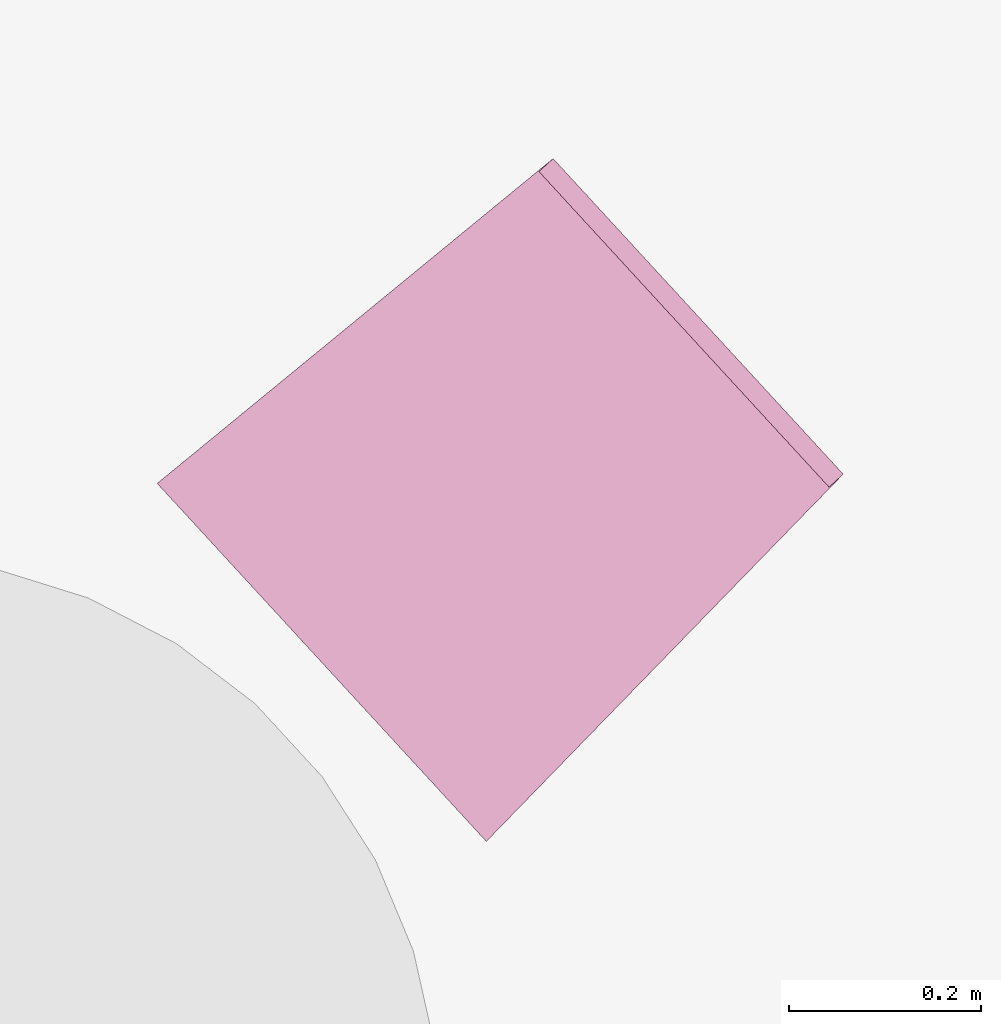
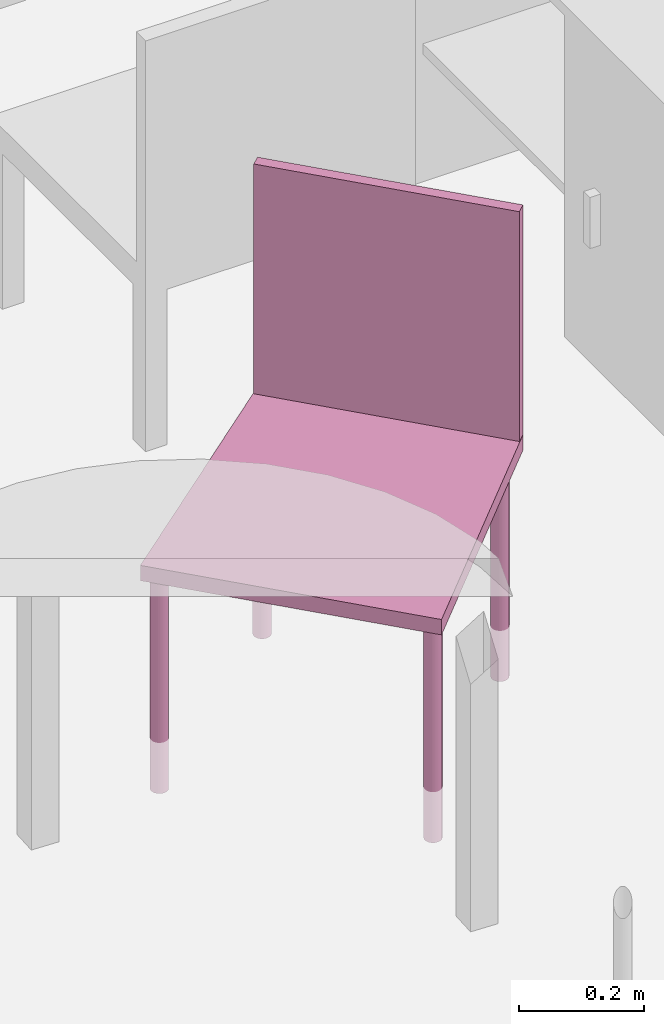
"""IFC4 building model written with IfcOpenShell, lengths in metres."""

from ifc_helpers import new_model, entity, si_unit, converted_unit, derived_unit, frame, origin, place, context, subcontext, project, spatial, faceted_brep, element, save


model = new_model("IFC4")

# Units and contexts
model_context = context("Model", 3, precision=1e-05, world=origin())
body_context = subcontext(model_context, "Body", "Model", "MODEL_VIEW")
ifc_project = project(units=[si_unit("LENGTHUNIT", "METRE"), si_unit("AREAUNIT", "SQUARE_METRE"), si_unit("VOLUMEUNIT", "CUBIC_METRE"), si_unit("MASSUNIT", "GRAM", prefix="KILO"), converted_unit("PLANEANGLEUNIT", "DEGREE", entity("IfcPlaneAngleMeasure", 0.0174532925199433), si_unit("PLANEANGLEUNIT", "RADIAN"), dimensions=[0, 0, 0, 0, 0, 0, 0]), derived_unit("THERMALTRANSMITTANCEUNIT", [(si_unit("POWERUNIT", "WATT"), 1), (si_unit("THERMODYNAMICTEMPERATUREUNIT", "KELVIN"), -1), (si_unit("LENGTHUNIT", "METRE"), -2)]), derived_unit("VOLUMETRICFLOWRATEUNIT", [(si_unit("LENGTHUNIT", "METRE"), 3), (converted_unit("TIMEUNIT", "hour", entity("IfcTimeMeasure", 3600.0), si_unit("TIMEUNIT", "SECOND"), dimensions=[0, 0, 1, 0, 0, 0, 0]), -1), (si_unit("LENGTHUNIT", "METRE"), -1)])], contexts=[model_context])

# Building, storeys
building_placement = place(None, origin())
building = spatial("IfcBuilding", under=ifc_project, at=building_placement, Name="HABITATGE PLURIFAMILIAR", CompositionType="ELEMENT")
storey_1_placement = place(building_placement, frame((0.0, 0.0, 12.27)))
storey_1 = spatial("IfcBuildingStorey", under=building, at=storey_1_placement, Name="PLANTA TERCERA", CompositionType="ELEMENT", Elevation=12.27)
storey_2_placement = place(storey_1_placement, frame((0.0, 0.0, 9.26)))
storey_2 = spatial("IfcBuildingStorey", under=storey_1, at=storey_2_placement, Name="NOU", CompositionType="PARTIAL")

# Furniture
furniture_placement = place(storey_2_placement, frame((402.579683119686, 23.9465361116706, -9.36074913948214)))
element("IfcFurniture", 1, at=furniture_placement, inside=storey_2, Name="Cadira confident_P3", context=body_context, shape_type="Brep", body=[
    faceted_brep([(0.0247551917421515, 0.383021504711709, 0.0), (0.0230003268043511, 0.381097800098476, 0.0), (0.021606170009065, 0.378898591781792, 0.0), (0.0206150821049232, 0.376490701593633, 0.0), (0.0200571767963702, 0.373947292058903, 0.0), (0.0199494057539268, 0.371345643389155, 0.0), (0.0202950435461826, 0.368764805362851, 0.0), (0.0210835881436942, 0.366283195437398, 0.0), (0.0222910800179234, 0.363976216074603, 0.0), (0.0238808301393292, 0.361913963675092, 0.0), (0.0258045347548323, 0.360159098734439, 0.0), (0.0280037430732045, 0.358764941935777, 0.0), (0.030411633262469, 0.357773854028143, 0.0), (0.0329550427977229, 0.357215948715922, 0.0), (0.0355566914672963, 0.357108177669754, 0.0), (0.0381375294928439, 0.357453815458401, 0.0), (0.0406191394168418, 0.358242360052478, 0.0), (0.0429261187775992, 0.359449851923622, 0.0), (0.0449883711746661, 0.361039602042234, 0.0), (0.0467432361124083, 0.362963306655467, 0.0), (0.0481373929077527, 0.365162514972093, 0.0), (0.0491284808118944, 0.367570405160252, 0.0), (0.0496863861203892, 0.37011381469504, 0.0), (0.0497941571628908, 0.372715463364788, 0.0), (0.049448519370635, 0.375296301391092, 0.0), (0.0486599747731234, 0.377777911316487, 0.0), (0.047452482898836, 0.38008489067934, 0.0), (0.0458627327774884, 0.382147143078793, 0.0), (0.0439390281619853, 0.383902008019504, 0.0), (0.0417398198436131, 0.385296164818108, 0.0), (0.0393319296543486, 0.386287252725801, 0.0), (0.0367885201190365, 0.386845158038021, 0.0), (0.0341868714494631, 0.386952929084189, 0.0), (0.0316060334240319, 0.386607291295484, 0.0), (0.0291244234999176, 0.385818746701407, 0.0), (0.0268174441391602, 0.384611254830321, 0.0), (0.0247551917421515, 0.383021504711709, 0.448281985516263), (0.0268174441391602, 0.384611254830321, 0.448281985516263), (0.0291244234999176, 0.385818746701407, 0.448281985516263), (0.0316060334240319, 0.386607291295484, 0.448281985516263), (0.0341868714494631, 0.386952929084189, 0.448281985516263), (0.0367885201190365, 0.386845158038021, 0.448281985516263), (0.0393319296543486, 0.386287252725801, 0.448281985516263), (0.0417398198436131, 0.385296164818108, 0.448281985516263), (0.0439390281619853, 0.383902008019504, 0.448281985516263), (0.0458627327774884, 0.382147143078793, 0.448281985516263), (0.047452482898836, 0.38008489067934, 0.448281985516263), (0.0486599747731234, 0.377777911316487, 0.448281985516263), (0.049448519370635, 0.375296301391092, 0.448281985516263), (0.0497941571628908, 0.372715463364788, 0.448281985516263), (0.0496863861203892, 0.37011381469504, 0.448281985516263), (0.0491284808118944, 0.367570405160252, 0.448281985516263), (0.0481373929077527, 0.365162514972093, 0.448281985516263), (0.0467432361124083, 0.362963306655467, 0.448281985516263), (0.0449883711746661, 0.361039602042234, 0.448281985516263), (0.0429261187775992, 0.359449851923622, 0.448281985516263), (0.0406191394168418, 0.358242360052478, 0.448281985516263), (0.0381375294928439, 0.357453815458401, 0.448281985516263), (0.0355566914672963, 0.357108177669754, 0.448281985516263), (0.0329550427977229, 0.357215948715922, 0.448281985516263), (0.030411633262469, 0.357773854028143, 0.448281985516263), (0.0280037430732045, 0.358764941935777, 0.448281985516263), (0.0258045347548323, 0.360159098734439, 0.448281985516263), (0.0238808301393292, 0.361913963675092, 0.448281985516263), (0.0222910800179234, 0.363976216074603, 0.448281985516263), (0.0210835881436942, 0.366283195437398, 0.448281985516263), (0.0202950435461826, 0.368764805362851, 0.448281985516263), (0.0199494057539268, 0.371345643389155, 0.448281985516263), (0.0200571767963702, 0.373947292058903, 0.448281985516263), (0.0206150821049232, 0.376490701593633, 0.448281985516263), (0.021606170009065, 0.378898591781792, 0.448281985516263), (0.0230003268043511, 0.381097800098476, 0.448281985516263)], [[[0, 1, 2, 3, 4, 5, 6, 7, 8, 9, 10, 11, 12, 13, 14, 15, 16, 17, 18, 19, 20, 21, 22, 23, 24, 25, 26, 27, 28, 29, 30, 31, 32, 33, 34, 35]], [[36, 37, 38, 39, 40, 41, 42, 43, 44, 45, 46, 47, 48, 49, 50, 51, 52, 53, 54, 55, 56, 57, 58, 59, 60, 61, 62, 63, 64, 65, 66, 67, 68, 69, 70, 71]], [[35, 37, 36, 0]], [[34, 38, 37, 35]], [[33, 39, 38, 34]], [[32, 40, 39, 33]], [[31, 41, 40, 32]], [[30, 42, 41, 31]], [[29, 43, 42, 30]], [[28, 44, 43, 29]], [[27, 45, 44, 28]], [[26, 46, 45, 27]], [[25, 47, 46, 26]], [[24, 48, 47, 25]], [[23, 49, 48, 24]], [[22, 50, 49, 23]], [[21, 51, 50, 22]], [[20, 52, 51, 21]], [[19, 53, 52, 20]], [[18, 54, 53, 19]], [[17, 55, 54, 18]], [[16, 56, 55, 17]], [[15, 57, 56, 16]], [[14, 58, 57, 15]], [[13, 59, 58, 14]], [[12, 60, 59, 13]], [[11, 61, 60, 12]], [[10, 62, 61, 11]], [[9, 63, 62, 10]], [[8, 64, 63, 9]], [[7, 65, 64, 8]], [[6, 66, 65, 7]], [[5, 67, 66, 6]], [[4, 68, 67, 5]], [[3, 69, 68, 4]], [[2, 70, 69, 3]], [[1, 71, 70, 2]], [[0, 36, 71, 1]]], orient=[[False], [False], [False], [False], [False], [False], [False], [False], [False], [False], [False], [False], [False], [False], [False], [False], [False], [False], [False], [False], [False], [False], [False], [False], [False], [False], [False], [False], [False], [False], [False], [False], [False], [False], [False], [False], [False], [False]]),
    faceted_brep([(0.383868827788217, 0.675633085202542, 0.0), (0.382113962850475, 0.673709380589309, 0.0), (0.380719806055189, 0.671510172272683, 0.0), (0.379728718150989, 0.669102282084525, 0.0), (0.379170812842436, 0.666558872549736, 0.0), (0.379063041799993, 0.663957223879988, 0.0), (0.379408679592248, 0.661376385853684, 0.0), (0.38019722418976, 0.658894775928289, 0.0), (0.381404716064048, 0.656587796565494, 0.0), (0.382994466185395, 0.654525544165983, 0.0), (0.384918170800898, 0.65277067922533, 0.0), (0.38711737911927, 0.651376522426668, 0.0), (0.389525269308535, 0.650385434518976, 0.0), (0.392068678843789, 0.649827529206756, 0.0), (0.394670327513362, 0.649719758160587, 0.0), (0.397251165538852, 0.650065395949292, 0.0), (0.399732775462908, 0.650853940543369, 0.0), (0.402039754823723, 0.652061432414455, 0.0), (0.404102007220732, 0.653651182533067, 0.0), (0.405856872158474, 0.655574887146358, 0.0), (0.407251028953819, 0.657774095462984, 0.0), (0.408242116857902, 0.660181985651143, 0.0), (0.408800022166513, 0.662725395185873, 0.0), (0.408907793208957, 0.665327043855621, 0.0), (0.408562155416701, 0.667907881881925, 0.0), (0.407773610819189, 0.670389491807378, 0.0), (0.406566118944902, 0.672696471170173, 0.0), (0.404976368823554, 0.674758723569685, 0.0), (0.403052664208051, 0.676513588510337, 0.0), (0.400853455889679, 0.677907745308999, 0.0), (0.398445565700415, 0.678898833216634, 0.0), (0.395902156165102, 0.679456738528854, 0.0), (0.393300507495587, 0.679564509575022, 0.0), (0.390719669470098, 0.679218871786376, 0.0), (0.388238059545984, 0.678430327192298, 0.0), (0.385931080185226, 0.677222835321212, 0.0), (0.383868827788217, 0.675633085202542, 0.448281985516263), (0.385931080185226, 0.677222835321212, 0.448281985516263), (0.388238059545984, 0.678430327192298, 0.448281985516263), (0.390719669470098, 0.679218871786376, 0.448281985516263), (0.393300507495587, 0.679564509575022, 0.448281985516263), (0.395902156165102, 0.679456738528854, 0.448281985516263), (0.398445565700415, 0.678898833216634, 0.448281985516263), (0.400853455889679, 0.677907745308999, 0.448281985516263), (0.403052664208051, 0.676513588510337, 0.448281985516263), (0.404976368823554, 0.674758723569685, 0.448281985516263), (0.406566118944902, 0.672696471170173, 0.448281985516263), (0.407773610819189, 0.670389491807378, 0.448281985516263), (0.408562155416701, 0.667907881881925, 0.448281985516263), (0.408907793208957, 0.665327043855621, 0.448281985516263), (0.408800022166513, 0.662725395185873, 0.448281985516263), (0.408242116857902, 0.660181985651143, 0.448281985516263), (0.407251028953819, 0.657774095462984, 0.448281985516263), (0.405856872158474, 0.655574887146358, 0.448281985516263), (0.404102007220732, 0.653651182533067, 0.448281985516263), (0.402039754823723, 0.652061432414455, 0.448281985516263), (0.399732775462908, 0.650853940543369, 0.448281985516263), (0.397251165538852, 0.650065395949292, 0.448281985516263), (0.394670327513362, 0.649719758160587, 0.448281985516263), (0.392068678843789, 0.649827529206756, 0.448281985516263), (0.389525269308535, 0.650385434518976, 0.448281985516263), (0.38711737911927, 0.651376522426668, 0.448281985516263), (0.384918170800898, 0.65277067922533, 0.448281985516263), (0.382994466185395, 0.654525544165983, 0.448281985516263), (0.381404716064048, 0.656587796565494, 0.448281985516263), (0.38019722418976, 0.658894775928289, 0.448281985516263), (0.379408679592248, 0.661376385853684, 0.448281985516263), (0.379063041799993, 0.663957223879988, 0.448281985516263), (0.379170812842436, 0.666558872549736, 0.448281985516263), (0.379728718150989, 0.669102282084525, 0.448281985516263), (0.380719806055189, 0.671510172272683, 0.448281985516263), (0.382113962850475, 0.673709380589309, 0.448281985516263)], [[[0, 1, 2, 3, 4, 5, 6, 7, 8, 9, 10, 11, 12, 13, 14, 15, 16, 17, 18, 19, 20, 21, 22, 23, 24, 25, 26, 27, 28, 29, 30, 31, 32, 33, 34, 35]], [[36, 37, 38, 39, 40, 41, 42, 43, 44, 45, 46, 47, 48, 49, 50, 51, 52, 53, 54, 55, 56, 57, 58, 59, 60, 61, 62, 63, 64, 65, 66, 67, 68, 69, 70, 71]], [[35, 37, 36, 0]], [[34, 38, 37, 35]], [[33, 39, 38, 34]], [[32, 40, 39, 33]], [[31, 41, 40, 32]], [[30, 42, 41, 31]], [[29, 43, 42, 30]], [[28, 44, 43, 29]], [[27, 45, 44, 28]], [[26, 46, 45, 27]], [[25, 47, 46, 26]], [[24, 48, 47, 25]], [[23, 49, 48, 24]], [[22, 50, 49, 23]], [[21, 51, 50, 22]], [[20, 52, 51, 21]], [[19, 53, 52, 20]], [[18, 54, 53, 19]], [[17, 55, 54, 18]], [[16, 56, 55, 17]], [[15, 57, 56, 16]], [[14, 58, 57, 15]], [[13, 59, 58, 14]], [[12, 60, 59, 13]], [[11, 61, 60, 12]], [[10, 62, 61, 11]], [[9, 63, 62, 10]], [[8, 64, 63, 9]], [[7, 65, 64, 8]], [[6, 66, 65, 7]], [[5, 67, 66, 6]], [[4, 68, 67, 5]], [[3, 69, 68, 4]], [[2, 70, 69, 3]], [[1, 71, 70, 2]], [[0, 36, 71, 1]]], orient=[[False], [False], [False], [False], [False], [False], [False], [False], [False], [False], [False], [False], [False], [False], [False], [False], [False], [False], [False], [False], [False], [False], [False], [False], [False], [False], [False], [False], [False], [False], [False], [False], [False], [False], [False], [False], [False], [False]]),
    faceted_brep([(0.336083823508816, 0.0443852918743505, 0.0), (0.334328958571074, 0.0424615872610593, 0.0), (0.332934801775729, 0.0402623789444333, 0.0), (0.331943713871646, 0.0378544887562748, 0.0), (0.331385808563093, 0.0353110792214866, 0.0), (0.331278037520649, 0.0327094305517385, 0.0), (0.331623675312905, 0.0301285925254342, 0.0), (0.332412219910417, 0.0276469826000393, 0.0), (0.333619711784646, 0.0253400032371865, 0.0), (0.335209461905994, 0.023277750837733, 0.0), (0.337133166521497, 0.0215228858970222, 0.0), (0.339332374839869, 0.0201287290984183, 0.0), (0.341740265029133, 0.0191376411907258, 0.0), (0.344283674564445, 0.0185797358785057, 0.0), (0.346885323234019, 0.0184719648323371, 0.0), (0.349466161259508, 0.0188176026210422, 0.0), (0.351947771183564, 0.0196061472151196, 0.0), (0.354254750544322, 0.0208136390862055, 0.0), (0.356317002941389, 0.0224033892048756, 0.0), (0.358071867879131, 0.0243270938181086, 0.0), (0.359466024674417, 0.0265263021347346, 0.0), (0.360457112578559, 0.0289341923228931, 0.0), (0.361015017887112, 0.0314776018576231, 0.0), (0.361122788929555, 0.0340792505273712, 0.0), (0.360777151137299, 0.0366600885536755, 0.0), (0.359988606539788, 0.0391416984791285, 0.0), (0.358781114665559, 0.0414486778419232, 0.0), (0.357191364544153, 0.0435109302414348, 0.0), (0.355267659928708, 0.0452657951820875, 0.0), (0.353068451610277, 0.0466599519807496, 0.0), (0.350660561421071, 0.0476510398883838, 0.0), (0.348117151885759, 0.0482089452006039, 0.0), (0.345515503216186, 0.0483167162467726, 0.0), (0.342934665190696, 0.0479710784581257, 0.0), (0.34045305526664, 0.0471825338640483, 0.0), (0.338146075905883, 0.0459750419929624, 0.0), (0.336083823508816, 0.0443852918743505, 0.448281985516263), (0.338146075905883, 0.0459750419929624, 0.448281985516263), (0.34045305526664, 0.0471825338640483, 0.448281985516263), (0.342934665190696, 0.0479710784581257, 0.448281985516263), (0.345515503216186, 0.0483167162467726, 0.448281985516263), (0.348117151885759, 0.0482089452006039, 0.448281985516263), (0.350660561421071, 0.0476510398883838, 0.448281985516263), (0.353068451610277, 0.0466599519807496, 0.448281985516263), (0.355267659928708, 0.0452657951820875, 0.448281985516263), (0.357191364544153, 0.0435109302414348, 0.448281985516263), (0.358781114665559, 0.0414486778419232, 0.448281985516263), (0.359988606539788, 0.0391416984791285, 0.448281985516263), (0.360777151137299, 0.0366600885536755, 0.448281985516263), (0.361122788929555, 0.0340792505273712, 0.448281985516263), (0.361015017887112, 0.0314776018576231, 0.448281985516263), (0.360457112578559, 0.0289341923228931, 0.448281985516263), (0.359466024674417, 0.0265263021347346, 0.448281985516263), (0.358071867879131, 0.0243270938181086, 0.448281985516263), (0.356317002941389, 0.0224033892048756, 0.448281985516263), (0.354254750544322, 0.0208136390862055, 0.448281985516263), (0.351947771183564, 0.0196061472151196, 0.448281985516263), (0.349466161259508, 0.0188176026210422, 0.448281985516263), (0.346885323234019, 0.0184719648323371, 0.448281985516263), (0.344283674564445, 0.0185797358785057, 0.448281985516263), (0.341740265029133, 0.0191376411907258, 0.448281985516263), (0.339332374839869, 0.0201287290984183, 0.448281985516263), (0.337133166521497, 0.0215228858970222, 0.448281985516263), (0.335209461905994, 0.023277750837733, 0.448281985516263), (0.333619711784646, 0.0253400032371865, 0.448281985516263), (0.332412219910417, 0.0276469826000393, 0.448281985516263), (0.331623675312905, 0.0301285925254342, 0.448281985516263), (0.331278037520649, 0.0327094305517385, 0.448281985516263), (0.331385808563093, 0.0353110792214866, 0.448281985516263), (0.331943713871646, 0.0378544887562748, 0.448281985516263), (0.332934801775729, 0.0402623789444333, 0.448281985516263), (0.334328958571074, 0.0424615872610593, 0.448281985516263)], [[[0, 1, 2, 3, 4, 5, 6, 7, 8, 9, 10, 11, 12, 13, 14, 15, 16, 17, 18, 19, 20, 21, 22, 23, 24, 25, 26, 27, 28, 29, 30, 31, 32, 33, 34, 35]], [[36, 37, 38, 39, 40, 41, 42, 43, 44, 45, 46, 47, 48, 49, 50, 51, 52, 53, 54, 55, 56, 57, 58, 59, 60, 61, 62, 63, 64, 65, 66, 67, 68, 69, 70, 71]], [[35, 37, 36, 0]], [[34, 38, 37, 35]], [[33, 39, 38, 34]], [[32, 40, 39, 33]], [[31, 41, 40, 32]], [[30, 42, 41, 31]], [[29, 43, 42, 30]], [[28, 44, 43, 29]], [[27, 45, 44, 28]], [[26, 46, 45, 27]], [[25, 47, 46, 26]], [[24, 48, 47, 25]], [[23, 49, 48, 24]], [[22, 50, 49, 23]], [[21, 51, 50, 22]], [[20, 52, 51, 21]], [[19, 53, 52, 20]], [[18, 54, 53, 19]], [[17, 55, 54, 18]], [[16, 56, 55, 17]], [[15, 57, 56, 16]], [[14, 58, 57, 15]], [[13, 59, 58, 14]], [[12, 60, 59, 13]], [[11, 61, 60, 12]], [[10, 62, 61, 11]], [[9, 63, 62, 10]], [[8, 64, 63, 9]], [[7, 65, 64, 8]], [[6, 66, 65, 7]], [[5, 67, 66, 6]], [[4, 68, 67, 5]], [[3, 69, 68, 4]], [[2, 70, 69, 3]], [[1, 71, 70, 2]], [[0, 36, 71, 1]]], orient=[[False], [False], [False], [False], [False], [False], [False], [False], [False], [False], [False], [False], [False], [False], [False], [False], [False], [False], [False], [False], [False], [False], [False], [False], [False], [False], [False], [False], [False], [False], [False], [False], [False], [False], [False], [False], [False], [False]]),
    faceted_brep([(0.654589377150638, 0.381166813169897, 0.0), (0.652834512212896, 0.379243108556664, 0.0), (0.651440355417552, 0.37704390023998, 0.0), (0.65044926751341, 0.37463601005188, 0.0), (0.649891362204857, 0.372092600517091, 0.0), (0.649783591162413, 0.369490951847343, 0.0), (0.650129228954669, 0.366910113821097, 0.0), (0.650917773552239, 0.364428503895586, 0.0), (0.652125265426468, 0.362121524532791, 0.0), (0.653715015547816, 0.36005927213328, 0.0), (0.655638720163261, 0.358304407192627, 0.0), (0.657837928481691, 0.356910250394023, 0.0), (0.660245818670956, 0.355919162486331, 0.0), (0.662789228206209, 0.35536125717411, 0.0), (0.665390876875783, 0.355253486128, 0.0), (0.667971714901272, 0.355599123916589, 0.0), (0.670453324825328, 0.356387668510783, 0.0), (0.672760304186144, 0.357595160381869, 0.0), (0.674822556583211, 0.359184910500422, 0.0), (0.676577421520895, 0.361108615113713, 0.0), (0.677971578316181, 0.363307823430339, 0.0), (0.678962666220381, 0.36571571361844, 0.0), (0.679520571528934, 0.368259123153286, 0.0), (0.679628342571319, 0.370860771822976, 0.0), (0.679282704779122, 0.37344160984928, 0.0), (0.67849416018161, 0.375923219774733, 0.0), (0.677286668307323, 0.378230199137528, 0.0), (0.675696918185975, 0.38029245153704, 0.0), (0.673773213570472, 0.382047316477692, 0.0), (0.6715740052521, 0.383441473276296, 0.0), (0.669166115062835, 0.384432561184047, 0.0), (0.666622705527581, 0.384990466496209, 0.0), (0.664021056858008, 0.385098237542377, 0.0), (0.66144021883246, 0.38475259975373, 0.0), (0.658958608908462, 0.383964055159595, 0.0), (0.656651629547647, 0.382756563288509, 0.0), (0.654589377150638, 0.381166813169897, 0.448281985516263), (0.656651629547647, 0.382756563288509, 0.448281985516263), (0.658958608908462, 0.383964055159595, 0.448281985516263), (0.66144021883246, 0.38475259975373, 0.448281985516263), (0.664021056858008, 0.385098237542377, 0.448281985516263), (0.666622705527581, 0.384990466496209, 0.448281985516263), (0.669166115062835, 0.384432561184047, 0.448281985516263), (0.6715740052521, 0.383441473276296, 0.448281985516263), (0.673773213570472, 0.382047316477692, 0.448281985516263), (0.675696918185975, 0.38029245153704, 0.448281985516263), (0.677286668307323, 0.378230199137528, 0.448281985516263), (0.67849416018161, 0.375923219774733, 0.448281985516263), (0.679282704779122, 0.37344160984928, 0.448281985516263), (0.679628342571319, 0.370860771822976, 0.448281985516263), (0.679520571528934, 0.368259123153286, 0.448281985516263), (0.678962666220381, 0.36571571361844, 0.448281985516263), (0.677971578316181, 0.363307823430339, 0.448281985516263), (0.676577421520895, 0.361108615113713, 0.448281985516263), (0.674822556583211, 0.359184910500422, 0.448281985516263), (0.672760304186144, 0.357595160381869, 0.448281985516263), (0.670453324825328, 0.356387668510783, 0.448281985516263), (0.667971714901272, 0.355599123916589, 0.448281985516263), (0.665390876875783, 0.355253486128, 0.448281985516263), (0.662789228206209, 0.35536125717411, 0.448281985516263), (0.660245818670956, 0.355919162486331, 0.448281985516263), (0.657837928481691, 0.356910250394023, 0.448281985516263), (0.655638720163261, 0.358304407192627, 0.448281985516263), (0.653715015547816, 0.36005927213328, 0.448281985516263), (0.652125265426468, 0.362121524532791, 0.448281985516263), (0.650917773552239, 0.364428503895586, 0.448281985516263), (0.650129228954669, 0.366910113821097, 0.448281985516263), (0.649783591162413, 0.369490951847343, 0.448281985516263), (0.649891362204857, 0.372092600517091, 0.448281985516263), (0.65044926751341, 0.37463601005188, 0.448281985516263), (0.651440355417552, 0.37704390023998, 0.448281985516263), (0.652834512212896, 0.379243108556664, 0.448281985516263)], [[[0, 1, 2, 3, 4, 5, 6, 7, 8, 9, 10, 11, 12, 13, 14, 15, 16, 17, 18, 19, 20, 21, 22, 23, 24, 25, 26, 27, 28, 29, 30, 31, 32, 33, 34, 35]], [[36, 37, 38, 39, 40, 41, 42, 43, 44, 45, 46, 47, 48, 49, 50, 51, 52, 53, 54, 55, 56, 57, 58, 59, 60, 61, 62, 63, 64, 65, 66, 67, 68, 69, 70, 71]], [[35, 37, 36, 0]], [[34, 38, 37, 35]], [[33, 39, 38, 34]], [[32, 40, 39, 33]], [[31, 41, 40, 32]], [[30, 42, 41, 31]], [[29, 43, 42, 30]], [[28, 44, 43, 29]], [[27, 45, 44, 28]], [[26, 46, 45, 27]], [[25, 47, 46, 26]], [[24, 48, 47, 25]], [[23, 49, 48, 24]], [[22, 50, 49, 23]], [[21, 51, 50, 22]], [[20, 52, 51, 21]], [[19, 53, 52, 20]], [[18, 54, 53, 19]], [[17, 55, 54, 18]], [[16, 56, 55, 17]], [[15, 57, 56, 16]], [[14, 58, 57, 15]], [[13, 59, 58, 14]], [[12, 60, 59, 13]], [[11, 61, 60, 12]], [[10, 62, 61, 11]], [[9, 63, 62, 10]], [[8, 64, 63, 9]], [[7, 65, 64, 8]], [[6, 66, 65, 7]], [[5, 67, 66, 6]], [[4, 68, 67, 5]], [[3, 69, 68, 4]], [[2, 70, 69, 3]], [[1, 71, 70, 2]], [[0, 36, 71, 1]]], orient=[[False], [False], [False], [False], [False], [False], [False], [False], [False], [False], [False], [False], [False], [False], [False], [False], [False], [False], [False], [False], [False], [False], [False], [False], [False], [False], [False], [False], [False], [False], [False], [False], [False], [False], [False], [False], [False], [False]]),
    faceted_brep([(0.714593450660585, 0.382554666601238, 0.418281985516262), (0.412391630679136, 0.711263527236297, 0.418281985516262), (0.0, 0.372878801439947, 0.418281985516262), (0.342809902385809, 0.0, 0.418281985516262), (0.342809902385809, 0.0, 0.448281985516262), (0.0, 0.372878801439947, 0.448281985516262), (0.412391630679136, 0.711263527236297, 0.448281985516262), (0.714593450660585, 0.382554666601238, 0.448281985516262)], [[[0, 1, 2, 3]], [[4, 5, 6, 7]], [[3, 4, 7, 0]], [[2, 5, 4, 3]], [[1, 6, 5, 2]], [[0, 7, 6, 1]]], orient=[[False], [False], [False], [False], [False], [False]]),
    faceted_brep([(0.699870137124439, 0.369018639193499, 0.448281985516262), (0.714593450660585, 0.382554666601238, 0.448281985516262), (0.412391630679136, 0.711263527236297, 0.448281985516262), (0.39766831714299, 0.697727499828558, 0.448281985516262), (0.39766831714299, 0.697727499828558, 0.89828198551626), (0.412391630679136, 0.711263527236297, 0.89828198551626), (0.714593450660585, 0.382554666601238, 0.89828198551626), (0.699870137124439, 0.369018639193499, 0.89828198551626)], [[[0, 1, 2, 3]], [[4, 5, 6, 7]], [[3, 4, 7, 0]], [[2, 5, 4, 3]], [[1, 6, 5, 2]], [[0, 7, 6, 1]]], orient=[[False], [False], [False], [False], [False], [False]]),
])

save(model, "model.ifc")
